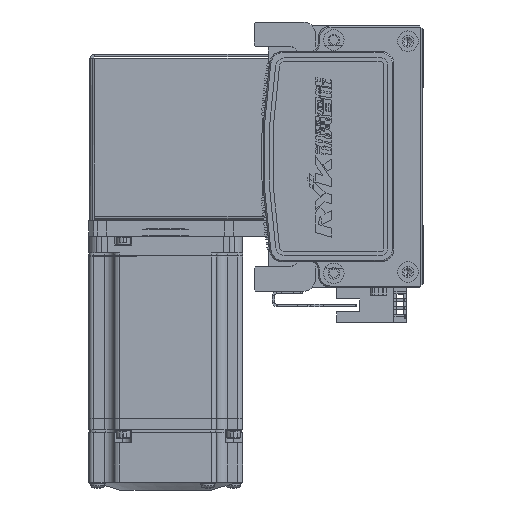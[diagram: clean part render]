
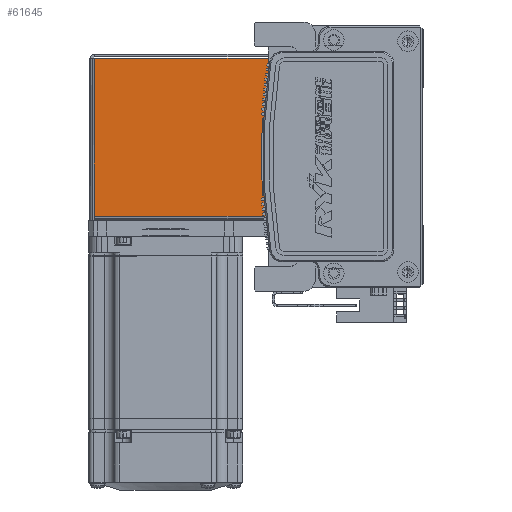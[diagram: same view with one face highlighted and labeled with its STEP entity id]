
A CAD part, left-side view. The second image highlights one B-rep face of the part: STEP entity #61645.
In plain terms, the highlighted planar face has unit normal (-1, 0, 0) as drawn and (0, 0, 1) by its records, which use the part's own axes.
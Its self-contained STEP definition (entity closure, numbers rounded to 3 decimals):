
#1005 = CARTESIAN_POINT ( 'NONE',  ( -30.793, 0., 35. ) ) ;
#1095 = LINE ( 'NONE', #61578, #8081 ) ;
#2443 = FACE_OUTER_BOUND ( 'NONE', #55307, .T. ) ;
#3945 = DIRECTION ( 'NONE',  ( -1., 0., 0. ) ) ;
#4823 = VECTOR ( 'NONE', #56767, 1000. ) ;
#6300 = ORIENTED_EDGE ( 'NONE', *, *, #24598, .F. ) ;
#8081 = VECTOR ( 'NONE', #67005, 1000. ) ;
#13926 = CARTESIAN_POINT ( 'NONE',  ( 30.763, 68.5, 35. ) ) ;
#15271 = EDGE_CURVE ( 'NONE', #50766, #50572, #1095, .T. ) ;
#17514 = ORIENTED_EDGE ( 'NONE', *, *, #67989, .T. ) ;
#20781 = CARTESIAN_POINT ( 'NONE',  ( -30.793, 68.5, 35. ) ) ;
#22440 = AXIS2_PLACEMENT_3D ( 'NONE', #70834, #42943, #3945 ) ;
#24598 = EDGE_CURVE ( 'NONE', #50572, #44510, #44728, .T. ) ;
#29877 = VECTOR ( 'NONE', #45797, 1000. ) ;
#38065 = PLANE ( 'NONE',  #22440 ) ;
#42943 = DIRECTION ( 'NONE',  ( 0., 0., -1. ) ) ;
#43802 = CARTESIAN_POINT ( 'NONE',  ( 30.763, 0.737, 35. ) ) ;
#44510 = VERTEX_POINT ( 'NONE', #20781 ) ;
#44728 = LINE ( 'NONE', #1005, #29877 ) ;
#44975 = LINE ( 'NONE', #45577, #4823 ) ;
#45220 = LINE ( 'NONE', #43802, #58253 ) ;
#45577 = CARTESIAN_POINT ( 'NONE',  ( 0., 68.5, 35. ) ) ;
#45797 = DIRECTION ( 'NONE',  ( 0., 1., 0. ) ) ;
#48156 = CARTESIAN_POINT ( 'NONE',  ( -30.793, 0.737, 35. ) ) ;
#50572 = VERTEX_POINT ( 'NONE', #48156 ) ;
#50766 = VERTEX_POINT ( 'NONE', #67187 ) ;
#51410 = EDGE_CURVE ( 'NONE', #54238, #44510, #44975, .T. ) ;
#52197 = ORIENTED_EDGE ( 'NONE', *, *, #51410, .T. ) ;
#53664 = ORIENTED_EDGE ( 'NONE', *, *, #15271, .F. ) ;
#54238 = VERTEX_POINT ( 'NONE', #13926 ) ;
#55307 = EDGE_LOOP ( 'NONE', ( #17514, #52197, #6300, #53664 ) ) ;
#56767 = DIRECTION ( 'NONE',  ( -1., 0., 0. ) ) ;
#58253 = VECTOR ( 'NONE', #60108, 1000. ) ;
#60108 = DIRECTION ( 'NONE',  ( 0., 1., 0. ) ) ;
#61578 = CARTESIAN_POINT ( 'NONE',  ( -32.5, 0.737, 35. ) ) ;
#61645 = ADVANCED_FACE ( 'NONE', ( #2443 ), #38065, .F. ) ;
#67005 = DIRECTION ( 'NONE',  ( -1., 0., 0. ) ) ;
#67187 = CARTESIAN_POINT ( 'NONE',  ( 30.763, 0.737, 35. ) ) ;
#67989 = EDGE_CURVE ( 'NONE', #50766, #54238, #45220, .T. ) ;
#70834 = CARTESIAN_POINT ( 'NONE',  ( 0., 0., 35. ) ) ;
